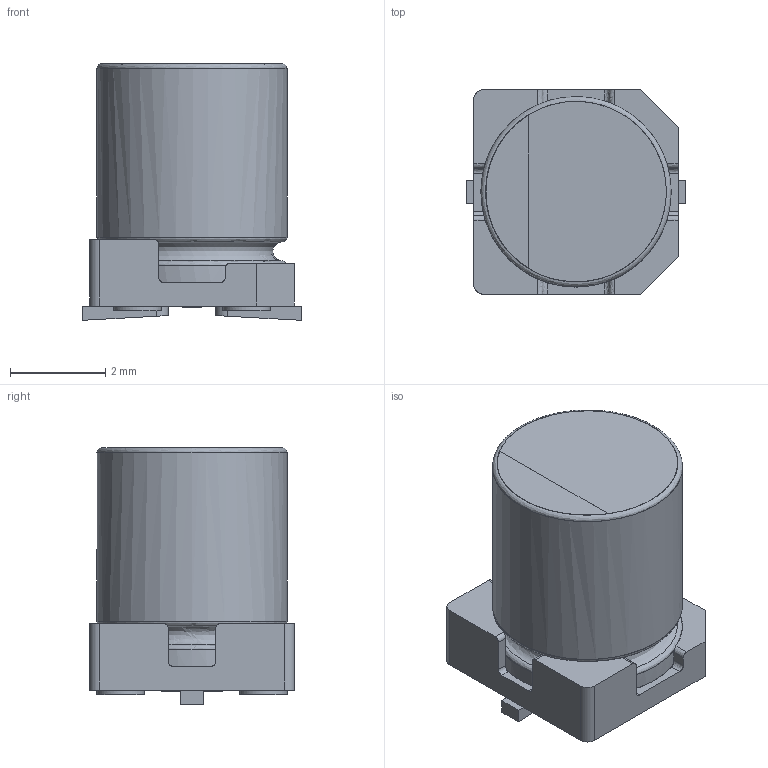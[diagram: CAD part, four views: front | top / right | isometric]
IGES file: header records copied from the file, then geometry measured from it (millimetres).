
Start section: JAMA-IS VERSION  1.0
Bounding box: 4.6 x 4.3 x 5.4 mm (x, y, z)
Surface area: 154.4 mm2 (no closed solid volume)
Topology: 0 solids, 0 shells, 81 faces, 922 edges, 904 vertices
Faces by surface type: bspline 81
